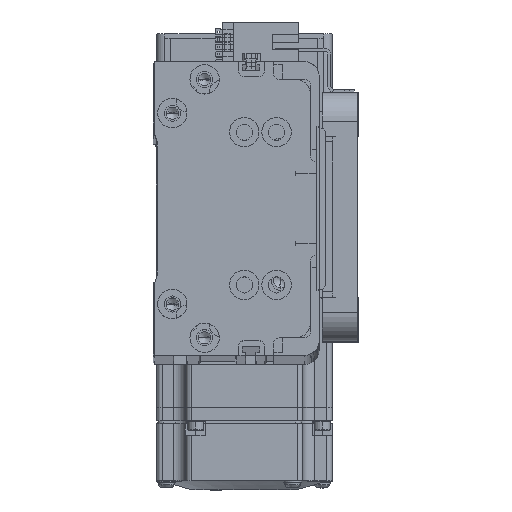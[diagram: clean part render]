
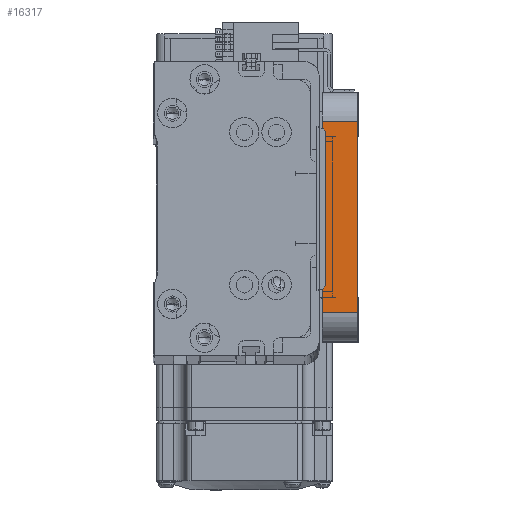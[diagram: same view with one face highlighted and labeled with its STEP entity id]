
A CAD part, top view. The second image highlights one B-rep face of the part: STEP entity #16317.
In plain terms, the highlighted planar face has unit normal (0, 0, 1) as drawn and (-1, 0, 0) by its records, which use the part's own axes.
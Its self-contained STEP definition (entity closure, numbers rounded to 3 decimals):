
#4258 = PLANE ( 'NONE',  #27246 ) ;
#7661 = ORIENTED_EDGE ( 'NONE', *, *, #35334, .T. ) ;
#8116 = DIRECTION ( 'NONE',  ( 0., -1., 0. ) ) ;
#10680 = CARTESIAN_POINT ( 'NONE',  ( -55., -32.5, 0. ) ) ;
#15872 = DIRECTION ( 'NONE',  ( 0., 0., 1. ) ) ;
#16317 = ADVANCED_FACE ( 'NONE', ( #49892 ), #4258, .F. ) ;
#17708 = VERTEX_POINT ( 'NONE', #10680 ) ;
#18831 = VECTOR ( 'NONE', #56797, 1000. ) ;
#19796 = CARTESIAN_POINT ( 'NONE',  ( -55., -42.5, 0. ) ) ;
#20390 = LINE ( 'NONE', #19796, #65232 ) ;
#20657 = LINE ( 'NONE', #62675, #18831 ) ;
#25864 = CARTESIAN_POINT ( 'NONE',  ( -55., 32.5, 12. ) ) ;
#27246 = AXIS2_PLACEMENT_3D ( 'NONE', #56826, #68602, #33576 ) ;
#30428 = LINE ( 'NONE', #33195, #44113 ) ;
#33195 = CARTESIAN_POINT ( 'NONE',  ( -55., -32.5, 12. ) ) ;
#33576 = DIRECTION ( 'NONE',  ( 0., 0., -1. ) ) ;
#35334 = EDGE_CURVE ( 'NONE', #73969, #17708, #20390, .T. ) ;
#37226 = ORIENTED_EDGE ( 'NONE', *, *, #39873, .T. ) ;
#39630 = CARTESIAN_POINT ( 'NONE',  ( -55., 32.5, 12. ) ) ;
#39873 = EDGE_CURVE ( 'NONE', #53282, #73969, #45487, .T. ) ;
#41659 = EDGE_CURVE ( 'NONE', #17708, #64970, #30428, .T. ) ;
#42552 = CARTESIAN_POINT ( 'NONE',  ( -55., 32.5, 0. ) ) ;
#43671 = CARTESIAN_POINT ( 'NONE',  ( -55., -32.5, 12. ) ) ;
#44113 = VECTOR ( 'NONE', #15872, 1000. ) ;
#45250 = ORIENTED_EDGE ( 'NONE', *, *, #51553, .F. ) ;
#45487 = LINE ( 'NONE', #39630, #61070 ) ;
#45502 = DIRECTION ( 'NONE',  ( 0., 0., -1. ) ) ;
#49892 = FACE_OUTER_BOUND ( 'NONE', #56316, .T. ) ;
#51553 = EDGE_CURVE ( 'NONE', #53282, #64970, #20657, .T. ) ;
#53282 = VERTEX_POINT ( 'NONE', #25864 ) ;
#56316 = EDGE_LOOP ( 'NONE', ( #7661, #71417, #45250, #37226 ) ) ;
#56797 = DIRECTION ( 'NONE',  ( 0., -1., 0. ) ) ;
#56826 = CARTESIAN_POINT ( 'NONE',  ( -55., -42.5, 12. ) ) ;
#61070 = VECTOR ( 'NONE', #45502, 1000. ) ;
#62675 = CARTESIAN_POINT ( 'NONE',  ( -55., -42.5, 12. ) ) ;
#64970 = VERTEX_POINT ( 'NONE', #43671 ) ;
#65232 = VECTOR ( 'NONE', #8116, 1000. ) ;
#68602 = DIRECTION ( 'NONE',  ( 1., 0., 0. ) ) ;
#71417 = ORIENTED_EDGE ( 'NONE', *, *, #41659, .T. ) ;
#73969 = VERTEX_POINT ( 'NONE', #42552 ) ;
